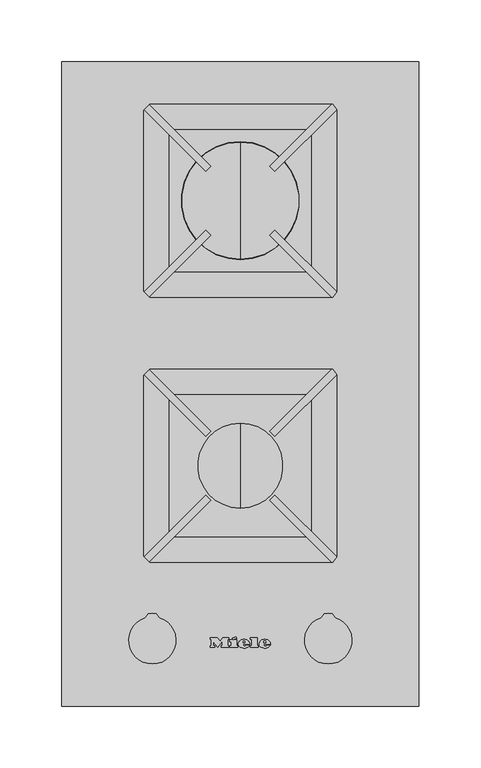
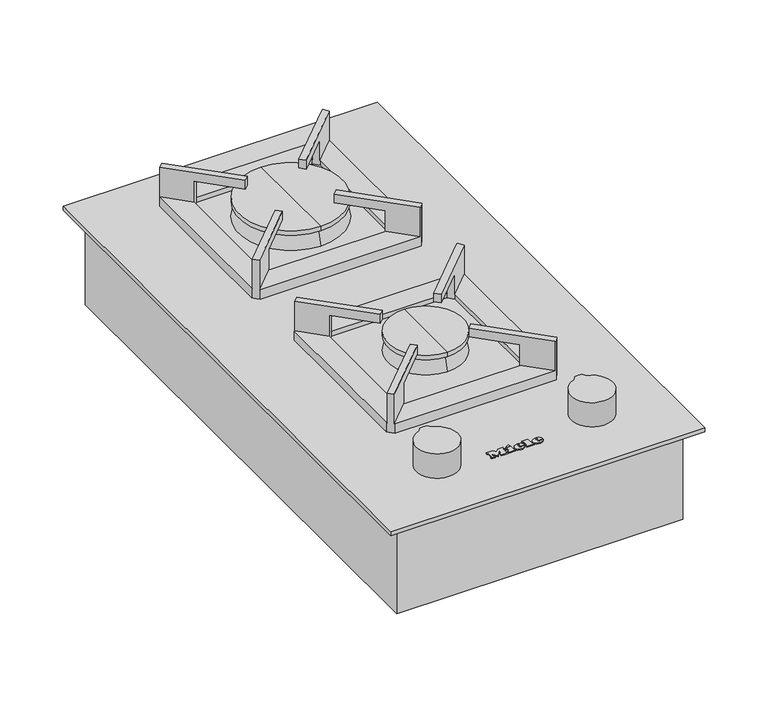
"""IFC4 building model written with IfcOpenShell, lengths in millimetres: proxy geometry, 12303270_SG_CS7152FL : 27715250_SG_12303270_CS7152FL."""

from ifc_helpers import new_model, si_unit, point, frame, frame_2d, origin, origin_with_axes, place, context, project, spatial, polyline, circle_curve, ellipse_curve, trimmed, segment, composite_curve, outline, extrude, faceted_brep, source, transform, mapped, element, save
from ifc_brep_helpers import plane_surface, cylinder_surface, revolved_surface, extruded_surface, advanced_brep


def specialty_equipment_6208a6e8(model_context):
    return source(origin(), model_context, "Body", "SolidModel", [
        advanced_brep(
        [(19.06, 49.1959995, 4.9919765), (19.06, 50.0039992, 4.9925904), (24.412, 50.0039992, 4.9925904), (15.1, 50.0039992, 4.9925904), (17.3, 47.3, 4.990536), (24.276, 49.1959995, 4.9919765), (21.86, 49.1959995, 4.9919765), (19.956, 48.2999997, 4.9912958), (19.06, 51.0279989, 4.9933684), (19.06, 51.8999987, 4.9940309), (20.428, 51.8999987, 4.9940309), (20.428, 51.0279989, 4.9933684), (19.06, 49.1967592, 3.9919768), (19.956, 48.3007595, 3.9912961), (21.86, 49.1967592, 3.9919768), (24.276, 49.1967592, 3.9919768), (17.3, 47.3007598, 3.9905363), (15.1, 50.004759, 3.9925907), (24.412, 50.004759, 3.9925907), (19.06, 50.004759, 3.9925907), (19.06, 51.0287587, 3.9933687), (20.428, 51.0287587, 3.9933687), (20.428, 51.9007584, 3.9940312), (19.06, 51.9007584, 3.9940312)],
        [
            (0, 1),
            (1, 2),
            (2, 3, ellipse_curve(frame((19.756, 50.0039992, 4.9925904), z_axis=(0.0, -0.0007597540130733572, 0.9999997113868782), x_axis=(-1.0, 0.0, 0.0)), 4.656, 3.848)),
            (3, 4, circle_curve(frame((18.1960436, 50.2759991, 4.9927971), z_axis=(0.0, -0.0007597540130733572, 0.9999997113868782), x_axis=(0.0, -0.9999997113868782, -0.0007597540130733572)), 3.1079688)),
            (4, 5, circle_curve(frame((19.6627936, 52.3879985, 4.9944017), z_axis=(0.0, -0.0007597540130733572, 0.9999997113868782), x_axis=(0.0, -0.9999997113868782, -0.0007597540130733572)), 5.6098607)),
            (5, 6),
            (6, 7, circle_curve(frame((20.3470588, 49.9399992, 4.9925418), z_axis=(0.0, 0.0007597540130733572, -0.9999997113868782), x_axis=(0.0, -0.9999997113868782, -0.0007597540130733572)), 1.6859795)),
            (7, 0, circle_curve(frame((19.956, 49.1959995, 4.9919765), z_axis=(0.0, 0.0007597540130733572, -0.9999997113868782), x_axis=(0.0, -0.9999997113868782, -0.0007597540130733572)), 0.896)),
            (8, 9),
            (9, 10, circle_curve(frame((19.744, 51.8999987, 4.9940309), z_axis=(0.0, 0.0007597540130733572, -0.9999997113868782), x_axis=(0.0, -0.9999997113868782, -0.0007597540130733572)), 0.684)),
            (10, 11),
            (11, 8),
            (12, 13, circle_curve(frame((19.956, 49.1967592, 3.9919768), z_axis=(0.0, -0.0007597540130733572, 0.9999997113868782), x_axis=(0.0, -0.9999997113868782, -0.0007597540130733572)), 0.896)),
            (13, 14, circle_curve(frame((20.3470588, 49.940759, 3.9925421), z_axis=(0.0, -0.0007597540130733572, 0.9999997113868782), x_axis=(0.0, -0.9999997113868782, -0.0007597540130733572)), 1.6859795)),
            (14, 15),
            (15, 16, circle_curve(frame((19.6627936, 52.3887583, 3.994402), z_axis=(0.0, 0.0007597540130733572, -0.9999997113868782), x_axis=(0.0, -0.9999997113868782, -0.0007597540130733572)), 5.6098607)),
            (16, 17, circle_curve(frame((18.1960436, 50.2767589, 3.9927974), z_axis=(0.0, 0.0007597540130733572, -0.9999997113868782), x_axis=(0.0, -0.9999997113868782, -0.0007597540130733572)), 3.1079688)),
            (17, 18, ellipse_curve(frame((19.756, 50.004759, 3.9925907), z_axis=(0.0, 0.0007597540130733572, -0.9999997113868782), x_axis=(-1.0, 0.0, 0.0)), 4.656, 3.848)),
            (18, 19),
            (19, 12),
            (20, 21),
            (21, 22),
            (22, 23, circle_curve(frame((19.744, 51.9007584, 3.9940312), z_axis=(0.0, -0.0007597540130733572, 0.9999997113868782), x_axis=(0.0, -0.9999997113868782, -0.0007597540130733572)), 0.684)),
            (23, 20),
            (0, 12),
            (19, 1),
            (18, 2),
            (5, 15),
            (14, 6),
            (17, 3),
            (13, 7),
            (16, 4),
            (8, 20),
            (23, 9),
            (22, 10),
            (21, 11),
        ],
        [
            plane_surface(frame((19.06, 50.0039992, 4.9925904), z_axis=(0.0, -0.0007597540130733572, 0.9999997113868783), x_axis=(0.0, 0.9999997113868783, 0.0007597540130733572))),
            plane_surface(frame((19.06, 50.004759, 3.9925907), z_axis=(0.0, 0.0007597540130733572, -0.9999997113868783), x_axis=(0.0, -0.9999997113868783, -0.0007597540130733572))),
            plane_surface(frame((19.06, 49.1959995, 4.9919765), z_axis=(1.0, 0.0, 0.0), x_axis=(0.0, 0.0007597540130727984, -0.9999997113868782))),
            plane_surface(frame((19.06, 50.0039992, 4.9925904), z_axis=(0.0, -0.9999997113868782, -0.0007597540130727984), x_axis=(0.0, 0.0007597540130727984, -0.9999997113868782))),
            plane_surface(frame((24.276, 49.1959995, 4.9919765), z_axis=(0.0, 0.9999997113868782, 0.0007597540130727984), x_axis=(0.0, 0.0007597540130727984, -0.9999997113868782))),
            extruded_surface(trimmed(ellipse_curve(frame((19.756, 50.0055187, 2.992591), z_axis=(0.0, -0.0007597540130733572, 0.9999997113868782), x_axis=(-1.0, 0.0, 0.0)), 4.656, 3.848), [point((24.412, 50.0055187, 2.992591))], [point((15.1, 50.0055187, 2.992591))], True, "CARTESIAN"), (0.0, -0.0007597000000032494, 0.9999997), 0.9999999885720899),
            revolved_surface(polyline([(20.3470588, 48.25477998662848, 3.9912611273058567), (20.3470588, 48.25402023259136, 4.991260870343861)]), (20.3470588, 49.940759, 3.9925421), (0.0, 0.0007597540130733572, -0.9999997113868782)),
            revolved_surface(polyline([(19.956, 48.30075945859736, 3.9912960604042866), (19.956, 48.29999970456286, 4.991295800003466)]), (19.956, 49.1967592, 3.9919768), (0.0, 0.0007597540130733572, -0.9999997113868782)),
            cylinder_surface(frame((18.1960436, 50.2767589, 3.9927974), z_axis=(0.0, -0.0007597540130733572, 0.9999997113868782), x_axis=(0.0, -0.9999997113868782, -0.0007597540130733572)), 3.1079688),
            cylinder_surface(frame((19.6627936, 52.3887583, 3.994402), z_axis=(0.0, -0.0007597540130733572, 0.9999997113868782), x_axis=(0.0, -0.9999997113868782, -0.0007597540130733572)), 5.6098607),
            plane_surface(frame((19.06, 51.0279989, 4.9933684), z_axis=(1.0, 0.0, 0.0), x_axis=(0.0, 0.0007597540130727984, -0.9999997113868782))),
            revolved_surface(polyline([(19.744, 51.21675859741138, 3.9935115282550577), (19.744, 51.215998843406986, 4.993511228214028)]), (19.744, 51.9007584, 3.9940312), (0.0, 0.0007597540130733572, -0.9999997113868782)),
            plane_surface(frame((20.428, 51.8999987, 4.9940309), z_axis=(-1.0, 0.0, 0.0), x_axis=(0.0, 0.0007597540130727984, -0.9999997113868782))),
            plane_surface(frame((20.428, 51.0279989, 4.9933684), z_axis=(0.0, 0.9999997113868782, 0.0007597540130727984), x_axis=(0.0, 0.0007597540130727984, -0.9999997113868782))),
        ],
        [
            (0, [[1, 2, 3, 4, 5, 6, 7, 8], [9, 10, 11, 12]]),
            (1, [[13, 14, 15, 16, 17, 18, 19, 20], [21, 22, 23, 24]]),
            (2, [[-1, 25, -20, 26]]),
            (3, [[-2, -26, -19, 27]]),
            (4, [[-6, 28, -15, 29]]),
            (5, [[-3, -27, -18, 30]]),
            (6, [[-7, -29, -14, 31]]),
            (7, [[-8, -31, -13, -25]]),
            (8, [[-4, -30, -17, 32]]),
            (9, [[-5, -32, -16, -28]]),
            (10, [[-9, 33, -24, 34]]),
            (11, [[-10, -34, -23, 35]]),
            (12, [[-11, -35, -22, 36]]),
            (13, [[-12, -36, -21, -33]]),
        ],
    ),
        advanced_brep(
        [(2.364, 49.1959995, 4.9919765), (2.364, 50.0039992, 4.9925904), (7.716, 50.0039992, 4.9925904), (-1.596, 50.0039992, 4.9925904), (0.604, 47.3, 4.990536), (7.58, 49.1959995, 4.9919765), (5.164, 49.1959995, 4.9919765), (3.26, 48.2999997, 4.9912958), (2.364, 51.0279989, 4.9933684), (2.364, 51.8999987, 4.9940309), (3.732, 51.8999987, 4.9940309), (3.732, 51.0279989, 4.9933684), (2.364, 49.1967592, 3.9919768), (3.26, 48.3007595, 3.9912961), (5.164, 49.1967592, 3.9919768), (7.58, 49.1967592, 3.9919768), (0.604, 47.3007598, 3.9905363), (-1.596, 50.004759, 3.9925907), (7.716, 50.004759, 3.9925907), (2.364, 50.004759, 3.9925907), (2.364, 51.0287587, 3.9933687), (3.732, 51.0287587, 3.9933687), (3.732, 51.9007584, 3.9940312), (2.364, 51.9007584, 3.9940312)],
        [
            (0, 1),
            (1, 2),
            (2, 3, ellipse_curve(frame((3.06, 50.0039992, 4.9925904), z_axis=(0.0, -0.0007597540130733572, 0.9999997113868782), x_axis=(-1.0, 0.0, 0.0)), 4.656, 3.848)),
            (3, 4, circle_curve(frame((1.5000436, 50.2759991, 4.9927971), z_axis=(0.0, -0.0007597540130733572, 0.9999997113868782), x_axis=(0.0, -0.9999997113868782, -0.0007597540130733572)), 3.1079688)),
            (4, 5, circle_curve(frame((2.9667936, 52.3879985, 4.9944017), z_axis=(0.0, -0.0007597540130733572, 0.9999997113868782), x_axis=(0.0, -0.9999997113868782, -0.0007597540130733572)), 5.6098607)),
            (5, 6),
            (6, 7, circle_curve(frame((3.6510588, 49.9399992, 4.9925418), z_axis=(0.0, 0.0007597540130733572, -0.9999997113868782), x_axis=(0.0, -0.9999997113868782, -0.0007597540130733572)), 1.6859795)),
            (7, 0, circle_curve(frame((3.26, 49.1959995, 4.9919765), z_axis=(0.0, 0.0007597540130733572, -0.9999997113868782), x_axis=(0.0, -0.9999997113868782, -0.0007597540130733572)), 0.896)),
            (8, 9),
            (9, 10, circle_curve(frame((3.048, 51.8999987, 4.9940309), z_axis=(0.0, 0.0007597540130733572, -0.9999997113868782), x_axis=(0.0, -0.9999997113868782, -0.0007597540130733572)), 0.684)),
            (10, 11),
            (11, 8),
            (12, 13, circle_curve(frame((3.26, 49.1967592, 3.9919768), z_axis=(0.0, -0.0007597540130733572, 0.9999997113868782), x_axis=(0.0, -0.9999997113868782, -0.0007597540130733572)), 0.896)),
            (13, 14, circle_curve(frame((3.6510588, 49.940759, 3.9925421), z_axis=(0.0, -0.0007597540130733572, 0.9999997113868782), x_axis=(0.0, -0.9999997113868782, -0.0007597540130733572)), 1.6859795)),
            (14, 15),
            (15, 16, circle_curve(frame((2.9667936, 52.3887583, 3.994402), z_axis=(0.0, 0.0007597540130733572, -0.9999997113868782), x_axis=(0.0, -0.9999997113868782, -0.0007597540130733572)), 5.6098607)),
            (16, 17, circle_curve(frame((1.5000436, 50.2767589, 3.9927974), z_axis=(0.0, 0.0007597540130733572, -0.9999997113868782), x_axis=(0.0, -0.9999997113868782, -0.0007597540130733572)), 3.1079688)),
            (17, 18, ellipse_curve(frame((3.06, 50.004759, 3.9925907), z_axis=(0.0, 0.0007597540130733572, -0.9999997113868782), x_axis=(-1.0, 0.0, 0.0)), 4.656, 3.848)),
            (18, 19),
            (19, 12),
            (20, 21),
            (21, 22),
            (22, 23, circle_curve(frame((3.048, 51.9007584, 3.9940312), z_axis=(0.0, -0.0007597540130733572, 0.9999997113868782), x_axis=(0.0, -0.9999997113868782, -0.0007597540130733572)), 0.684)),
            (23, 20),
            (0, 12),
            (19, 1),
            (18, 2),
            (5, 15),
            (14, 6),
            (17, 3),
            (13, 7),
            (16, 4),
            (8, 20),
            (23, 9),
            (22, 10),
            (21, 11),
        ],
        [
            plane_surface(frame((2.364, 50.0039992, 4.9925904), z_axis=(0.0, -0.0007597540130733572, 0.9999997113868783), x_axis=(0.0, 0.9999997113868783, 0.0007597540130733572))),
            plane_surface(frame((2.364, 50.004759, 3.9925907), z_axis=(0.0, 0.0007597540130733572, -0.9999997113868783), x_axis=(0.0, -0.9999997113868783, -0.0007597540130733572))),
            plane_surface(frame((2.364, 49.1959995, 4.9919765), z_axis=(1.0, 0.0, 0.0), x_axis=(0.0, 0.0007597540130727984, -0.9999997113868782))),
            plane_surface(frame((2.364, 50.0039992, 4.9925904), z_axis=(0.0, -0.9999997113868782, -0.0007597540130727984), x_axis=(0.0, 0.0007597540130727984, -0.9999997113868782))),
            plane_surface(frame((7.58, 49.1959995, 4.9919765), z_axis=(0.0, 0.9999997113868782, 0.0007597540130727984), x_axis=(0.0, 0.0007597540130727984, -0.9999997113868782))),
            extruded_surface(trimmed(ellipse_curve(frame((3.06, 50.0055187, 2.992591), z_axis=(0.0, -0.0007597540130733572, 0.9999997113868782), x_axis=(-1.0, 0.0, 0.0)), 4.656, 3.848), [point((7.716, 50.0055187, 2.992591))], [point((-1.596, 50.0055187, 2.992591))], True, "CARTESIAN"), (0.0, -0.0007597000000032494, 0.9999997), 0.9999999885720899),
            revolved_surface(polyline([(3.6510588, 48.25477998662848, 3.9912611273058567), (3.6510588, 48.25402023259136, 4.991260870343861)]), (3.6510588, 49.940759, 3.9925421), (0.0, 0.0007597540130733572, -0.9999997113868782)),
            revolved_surface(polyline([(3.26, 48.30075945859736, 3.9912960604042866), (3.26, 48.29999970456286, 4.991295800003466)]), (3.26, 49.1967592, 3.9919768), (0.0, 0.0007597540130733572, -0.9999997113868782)),
            cylinder_surface(frame((1.5000436, 50.2767589, 3.9927974), z_axis=(0.0, -0.0007597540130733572, 0.9999997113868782), x_axis=(0.0, -0.9999997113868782, -0.0007597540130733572)), 3.1079688),
            cylinder_surface(frame((2.9667936, 52.3887583, 3.994402), z_axis=(0.0, -0.0007597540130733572, 0.9999997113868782), x_axis=(0.0, -0.9999997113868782, -0.0007597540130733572)), 5.6098607),
            plane_surface(frame((2.364, 51.0279989, 4.9933684), z_axis=(1.0, 0.0, 0.0), x_axis=(0.0, 0.0007597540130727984, -0.9999997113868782))),
            revolved_surface(polyline([(3.048, 51.21675859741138, 3.9935115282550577), (3.048, 51.215998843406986, 4.993511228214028)]), (3.048, 51.9007584, 3.9940312), (0.0, 0.0007597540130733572, -0.9999997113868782)),
            plane_surface(frame((3.732, 51.8999987, 4.9940309), z_axis=(-1.0, 0.0, 0.0), x_axis=(0.0, 0.0007597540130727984, -0.9999997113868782))),
            plane_surface(frame((3.732, 51.0279989, 4.9933684), z_axis=(0.0, 0.9999997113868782, 0.0007597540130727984), x_axis=(0.0, 0.0007597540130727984, -0.9999997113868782))),
        ],
        [
            (0, [[1, 2, 3, 4, 5, 6, 7, 8], [9, 10, 11, 12]]),
            (1, [[13, 14, 15, 16, 17, 18, 19, 20], [21, 22, 23, 24]]),
            (2, [[-1, 25, -20, 26]]),
            (3, [[-2, -26, -19, 27]]),
            (4, [[-6, 28, -15, 29]]),
            (5, [[-3, -27, -18, 30]]),
            (6, [[-7, -29, -14, 31]]),
            (7, [[-8, -31, -13, -25]]),
            (8, [[-4, -30, -17, 32]]),
            (9, [[-5, -32, -16, -28]]),
            (10, [[-9, 33, -24, 34]]),
            (11, [[-10, -34, -23, 35]]),
            (12, [[-11, -35, -22, 36]]),
            (13, [[-12, -36, -21, -33]]),
        ],
    ),
        extrude(outline(polyline([(0.0, 0.0), (-0.0109086, -2.9993294), (-1.4390415, -2.9920868), (-1.4315306, 0.0), (0.0, 0.0)])), frame((-6.38, 54.8287576, 3.9962558), z_axis=(0.0, -0.0007597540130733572, 0.9999997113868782), x_axis=(-0.42472021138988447, 0.9053243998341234, 0.0006878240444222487)), (0.0, 0.0, 1.0), 1.0),
        extrude(outline(polyline([(-0.4933908, 2.4141097), (-2.7800844, -2.4601583), (-7.0459742, -0.4588767), (-7.4401145, -1.2990179), (-8.6568709, -0.728194), (-5.9760369, 4.9862153), (-4.7592806, 4.4153913), (-5.1636142, 3.5535222), (-2.1941494, 2.16044), (-1.7898157, 3.022309), (-0.4933908, 2.4141097)])), frame((-6.38, 54.8287576, 3.9962558), z_axis=(0.0, -0.0007597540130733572, 0.9999997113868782), x_axis=(-0.42472021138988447, 0.9053243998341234, 0.0006878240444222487)), (0.0, 0.0, 1.0), 1.0),
        extrude(outline(polyline([(0.0, 0.0), (0.0, -1.304), (-5.504, -1.304), (-5.504, 5.3519999), (-6.488, 5.3519999), (-6.488, 6.6959999), (0.0, 6.6959999), (0.0, 5.3519999), (-0.96, 5.3519999), (-0.96, 0.0), (0.0, 0.0)])), frame((8.164, 53.9967578, 3.9956236), z_axis=(0.0, -0.0007597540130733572, 0.9999997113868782), x_axis=(-1.0, 0.0, 0.0)), (0.0, 0.0, 1.0), 1.0),
        extrude(outline(polyline([(0.0, 0.0), (0.0, -1.304), (-5.576, -1.304), (-7.92, 1.696), (-10.256, -1.304), (-15.128, -1.304), (-15.128, 0.0), (-14.112, 0.0), (-14.112, 5.3519999), (-15.128, 5.3519999), (-15.128, 6.6959999), (-8.744, 6.6959999), (-8.744, 5.3519999), (-9.728, 5.3519999), (-9.728, 1.8807776), (-6.136, 6.6959999), (-2.56, 1.9488753), (-2.56, 5.3519999), (-3.52, 5.3519999), (-3.52, 6.6959999), (0.0, 6.6959999), (0.0, 5.3519999), (-0.968, 5.3519999), (-0.968, 0.0), (0.0, 0.0)])), frame((-24.3, 53.9967578, 3.9956236), z_axis=(0.0, -0.0007597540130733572, 0.9999997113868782), x_axis=(-1.0, 0.0, 0.0)), (0.0, 0.0, 1.0), 1.0),
        extrude(outline(composite_curve([segment(polyline([(-76.6016767, 71.1554735), (-74.3, 74.5)]), True, "CONTINUOUS"), segment(trimmed(circle_curve(frame_2d((-71.0, 53.0)), 21.7517815), [point((-74.3, 74.5))], [point((-67.7, 74.5))], False, "CARTESIAN"), True, "CONTINUOUS"), segment(polyline([(-67.7, 74.5), (-65.3983233, 71.1554735)]), True, "CONTINUOUS"), segment(trimmed(circle_curve(frame_2d((-71.0, 53.0)), 19.0), [point((-65.3983233, 71.1554735))], [point((-76.6016767, 71.1554735))], False, "CARTESIAN"), True, "CONTINUOUS")], self_intersect=False)), frame((0.0, 0.0, 11.5), z_axis=(0.0, 0.0, 1.0), x_axis=(1.0, 0.0, 0.0)), (0.0, 0.0, 1.0), 23.5),
        extrude(outline(composite_curve([segment(trimmed(circle_curve(frame_2d((71.0, 53.0)), 7.5), [point((63.5, 53.0))], [point((78.5, 53.0))], False, "CARTESIAN"), True, "CONTINUOUS"), segment(trimmed(circle_curve(frame_2d((71.0, 53.0)), 7.5), [point((78.5, 53.0))], [point((63.5, 53.0))], False, "CARTESIAN"), True, "CONTINUOUS")], self_intersect=False)), frame((0.0, 0.0, 4.0), z_axis=(0.0, 0.0, 1.0), x_axis=(1.0, 0.0, 0.0)), (0.0, 0.0, 1.0), 7.5),
        extrude(outline(composite_curve([segment(trimmed(circle_curve(frame_2d((-71.0, 53.0)), 7.5), [point((-78.5, 53.0))], [point((-63.5, 53.0))], False, "CARTESIAN"), True, "CONTINUOUS"), segment(trimmed(circle_curve(frame_2d((-71.0, 53.0)), 7.5), [point((-63.5, 53.0))], [point((-78.5, 53.0))], False, "CARTESIAN"), True, "CONTINUOUS")], self_intersect=False)), frame((0.0, 0.0, 4.0), z_axis=(0.0, 0.0, 1.0), x_axis=(1.0, 0.0, 0.0)), (0.0, 0.0, 1.0), 7.5),
        extrude(outline(composite_curve([segment(polyline([(65.3983233, 71.1554735), (67.7, 74.5)]), True, "CONTINUOUS"), segment(trimmed(circle_curve(frame_2d((71.0, 53.0)), 21.7517815), [point((67.7, 74.5))], [point((74.3, 74.5))], False, "CARTESIAN"), True, "CONTINUOUS"), segment(polyline([(74.3, 74.5), (76.6016767, 71.1554735)]), True, "CONTINUOUS"), segment(trimmed(circle_curve(frame_2d((71.0, 53.0)), 19.0), [point((76.6016767, 71.1554735))], [point((65.3983233, 71.1554735))], False, "CARTESIAN"), True, "CONTINUOUS")], self_intersect=False)), frame((0.0, 0.0, 11.5), z_axis=(0.0, 0.0, 1.0), x_axis=(1.0, 0.0, 0.0)), (0.0, 0.0, 1.0), 23.5),
        extrude(outline(polyline([(131.0, 507.0), (131.0, 13.0), (-131.0, 13.0), (-131.0, 507.0), (131.0, 507.0)])), frame((0.0, 0.0, -88.0), z_axis=(0.0, 0.0, 1.0), x_axis=(1.0, 0.0, 0.0)), (0.0, 0.0, 1.0), 85.5),
        extrude(outline(polyline([(133.0, 509.0), (133.0, 11.0), (-133.0, 11.0), (-133.0, 509.0), (133.0, 509.0)])), frame((0.0, 0.0, -2.5), z_axis=(0.0, 0.0, 1.0), x_axis=(1.0, 0.0, 0.0)), (0.0, 0.0, 1.0), 2.5),
        extrude(outline(polyline([(67.9, 475.9), (67.9, 340.1), (-67.9, 340.1), (-67.9, 475.9), (67.9, 475.9)])), frame((0.0, 0.0, 4.0), z_axis=(0.0, 0.0, 1.0), x_axis=(1.0, 0.0, 0.0)), (0.0, 0.0, 1.0), 3.8),
        extrude(outline(polyline([(67.9, 261.9), (67.9, 126.1), (-67.9, 126.1), (-67.9, 261.9), (67.9, 261.9)])), frame((0.0, 0.0, 4.0), z_axis=(0.0, 0.0, 1.0), x_axis=(1.0, 0.0, 0.0)), (0.0, 0.0, 1.0), 3.8),
        extrude(outline(polyline([(144.0, 520.0), (144.0, 0.0), (-144.0, 0.0), (-144.0, 520.0), (144.0, 520.0)])), origin_with_axes(), (0.0, 0.0, 1.0), 4.0),
        faceted_brep([(74.5, 486.0, 42.0), (73.7573593, 486.0, 42.0), (23.6886797, 435.9313203, 42.0), (27.9313203, 431.6886797, 42.0), (77.6881462, 481.4455055, 42.0), (73.7573593, 330.0, 42.0), (74.5, 330.0, 42.0), (77.6881462, 334.5544945, 42.0), (27.9313203, 384.3113203, 42.0), (23.6886797, 380.0686797, 42.0), (-73.3786797, 485.6213203, 42.0), (-77.6213203, 481.3786797, 42.0), (-27.9313203, 431.6886797, 42.0), (-23.6886797, 435.9313203, 42.0), (-77.6213203, 334.6213203, 42.0), (-73.3786797, 330.3786797, 42.0), (-23.6886797, 380.0686797, 42.0), (-27.9313203, 384.3113203, 42.0), (74.5, 486.0, 4.0), (78.0, 481.0, 4.0), (78.0, 335.0, 4.0), (74.5, 330.0, 4.0), (-73.0, 330.0, 4.0), (-78.0, 335.0, 4.0), (-78.0, 481.0, 4.0), (-73.0, 486.0, 4.0), (69.0, 339.0, 4.0), (69.0, 477.0, 4.0), (-69.0, 477.0, 4.0), (-69.0, 339.0, 4.0), (-73.0, 486.0, 13.5), (73.7573593, 486.0, 13.5), (-78.0, 335.0, 13.5), (-78.0, 481.0, 13.5), (73.7573593, 330.0, 13.5), (-73.0, 330.0, 13.5), (78.0, 481.0, 13.5), (78.0, 335.0, 13.5), (-27.9313203, 431.6886797, 33.5), (-23.6886797, 435.9313203, 33.5), (23.6886797, 435.9313203, 33.5), (27.9313203, 431.6886797, 33.5), (27.9313203, 384.3113203, 33.5), (23.6886797, 380.0686797, 33.5), (-23.6886797, 380.0686797, 33.5), (-27.9313203, 384.3113203, 33.5), (69.0, 477.0, 9.0), (69.0, 339.0, 9.0), (-69.0, 339.0, 9.0), (-69.0, 477.0, 9.0), (57.85, 355.15, 9.0), (57.85, 460.85, 9.0), (52.85, 465.85, 9.0), (-52.85, 465.85, 9.0), (-57.85, 460.85, 9.0), (-57.85, 355.15, 9.0), (-52.85, 350.15, 9.0), (52.85, 350.15, 9.0), (-73.3786797, 485.6213203, 13.5), (-53.2286797, 465.4713203, 13.5), (-52.85, 465.85, 13.5), (52.85, 465.85, 13.5), (53.2286797, 465.4713203, 13.5), (-77.6213203, 334.6213203, 13.5), (-57.4713203, 354.7713203, 13.5), (-57.85, 355.15, 13.5), (-57.85, 460.85, 13.5), (-57.4713203, 461.2286797, 13.5), (-77.6213203, 481.3786797, 13.5), (53.2286797, 350.5286797, 13.5), (52.85, 350.15, 13.5), (-52.85, 350.15, 13.5), (-53.2286797, 350.5286797, 13.5), (-73.3786797, 330.3786797, 13.5), (77.6881462, 481.4455055, 13.5), (57.4713203, 461.2286797, 13.5), (57.85, 460.85, 13.5), (57.85, 355.15, 13.5), (57.4713203, 354.7713203, 13.5), (77.6881462, 334.5544945, 13.5), (53.2286797, 350.5286797, 33.5), (-53.2286797, 350.5286797, 33.5), (57.4713203, 461.2286797, 33.5), (57.4713203, 354.7713203, 33.5), (-53.2286797, 465.4713203, 33.5), (53.2286797, 465.4713203, 33.5), (-57.4713203, 354.7713203, 33.5), (-57.4713203, 461.2286797, 33.5)], [[[0, 1, 2, 3, 4]], [[5, 6, 7, 8, 9]], [[10, 11, 12, 13]], [[14, 15, 16, 17]], [[18, 19, 20, 21, 22, 23, 24, 25], [26, 27, 28, 29]], [[18, 25, 30, 31, 1, 0]], [[24, 23, 32, 33]], [[22, 21, 6, 5, 34, 35]], [[20, 19, 36, 37]], [[13, 12, 38, 39]], [[3, 2, 40, 41]], [[9, 8, 42, 43]], [[17, 16, 44, 45]], [[46, 47, 48, 49], [50, 51, 52, 53, 54, 55, 56, 57]], [[47, 46, 27, 26]], [[48, 47, 26, 29]], [[49, 48, 29, 28]], [[46, 49, 28, 27]], [[31, 30, 58, 59, 60, 61, 62]], [[33, 32, 63, 64, 65, 66, 67, 68]], [[35, 34, 69, 70, 71, 72, 73]], [[37, 36, 74, 75, 76, 77, 78, 79]], [[5, 9, 43, 80, 69, 34]], [[16, 15, 73, 72, 81, 44]], [[4, 3, 41, 82, 75, 74]], [[8, 7, 79, 78, 83, 42]], [[10, 13, 39, 84, 59, 58]], [[2, 1, 31, 62, 85, 40]], [[14, 17, 45, 86, 64, 63]], [[12, 11, 68, 67, 87, 38]], [[85, 82, 41, 40]], [[83, 80, 43, 42]], [[81, 86, 45, 44]], [[87, 84, 39, 38]], [[76, 51, 50, 77]], [[70, 57, 56, 71]], [[65, 55, 54, 66]], [[60, 53, 52, 61]], [[82, 85, 62, 61, 52, 51, 76, 75]], [[80, 83, 78, 77, 50, 57, 70, 69]], [[86, 81, 72, 71, 56, 55, 65, 64]], [[84, 87, 67, 66, 54, 53, 60, 59]], [[25, 24, 33, 68, 11, 10, 58, 30]], [[23, 22, 35, 73, 15, 14, 63, 32]], [[21, 20, 37, 79, 7, 6]], [[19, 18, 0, 4, 74, 36]]]),
        faceted_brep([(74.5, 272.0, 42.0), (73.7573593, 272.0, 42.0), (23.6886797, 221.9313203, 42.0), (27.9313203, 217.6886797, 42.0), (77.6881462, 267.4455055, 42.0), (73.7573593, 116.0, 42.0), (74.5, 116.0, 42.0), (77.6881462, 120.5544945, 42.0), (27.9313203, 170.3113203, 42.0), (23.6886797, 166.0686797, 42.0), (-73.3786797, 271.6213203, 42.0), (-77.6213203, 267.3786797, 42.0), (-27.9313203, 217.6886797, 42.0), (-23.6886797, 221.9313203, 42.0), (-77.6213203, 120.6213203, 42.0), (-73.3786797, 116.3786797, 42.0), (-23.6886797, 166.0686797, 42.0), (-27.9313203, 170.3113203, 42.0), (74.5, 272.0, 4.0), (78.0, 267.0, 4.0), (78.0, 121.0, 4.0), (74.5, 116.0, 4.0), (-73.0, 116.0, 4.0), (-78.0, 121.0, 4.0), (-78.0, 267.0, 4.0), (-73.0, 272.0, 4.0), (69.0, 125.0, 4.0), (69.0, 263.0, 4.0), (-69.0, 263.0, 4.0), (-69.0, 125.0, 4.0), (-73.0, 272.0, 13.5), (73.7573593, 272.0, 13.5), (-78.0, 121.0, 13.5), (-78.0, 267.0, 13.5), (73.7573593, 116.0, 13.5), (-73.0, 116.0, 13.5), (78.0, 267.0, 13.5), (78.0, 121.0, 13.5), (-27.9313203, 217.6886797, 33.5), (-23.6886797, 221.9313203, 33.5), (23.6886797, 221.9313203, 33.5), (27.9313203, 217.6886797, 33.5), (27.9313203, 170.3113203, 33.5), (23.6886797, 166.0686797, 33.5), (-23.6886797, 166.0686797, 33.5), (-27.9313203, 170.3113203, 33.5), (69.0, 263.0, 9.0), (69.0, 125.0, 9.0), (-69.0, 125.0, 9.0), (-69.0, 263.0, 9.0), (57.85, 141.15, 9.0), (57.85, 246.85, 9.0), (52.85, 251.85, 9.0), (-52.85, 251.85, 9.0), (-57.85, 246.85, 9.0), (-57.85, 141.15, 9.0), (-52.85, 136.15, 9.0), (52.85, 136.15, 9.0), (-73.3786797, 271.6213203, 13.5), (-53.2286797, 251.4713203, 13.5), (-52.85, 251.85, 13.5), (52.85, 251.85, 13.5), (53.2286797, 251.4713203, 13.5), (-77.6213203, 120.6213203, 13.5), (-57.4713203, 140.7713203, 13.5), (-57.85, 141.15, 13.5), (-57.85, 246.85, 13.5), (-57.4713203, 247.2286797, 13.5), (-77.6213203, 267.3786797, 13.5), (53.2286797, 136.5286797, 13.5), (52.85, 136.15, 13.5), (-52.85, 136.15, 13.5), (-53.2286797, 136.5286797, 13.5), (-73.3786797, 116.3786797, 13.5), (77.6881462, 267.4455055, 13.5), (57.4713203, 247.2286797, 13.5), (57.85, 246.85, 13.5), (57.85, 141.15, 13.5), (57.4713203, 140.7713203, 13.5), (77.6881462, 120.5544945, 13.5), (-53.2286797, 251.4713203, 33.5), (53.2286797, 251.4713203, 33.5), (57.4713203, 247.2286797, 33.5), (57.4713203, 140.7713203, 33.5), (53.2286797, 136.5286797, 33.5), (-53.2286797, 136.5286797, 33.5), (-57.4713203, 140.7713203, 33.5), (-57.4713203, 247.2286797, 33.5)], [[[0, 1, 2, 3, 4]], [[5, 6, 7, 8, 9]], [[10, 11, 12, 13]], [[14, 15, 16, 17]], [[18, 19, 20, 21, 22, 23, 24, 25], [26, 27, 28, 29]], [[18, 25, 30, 31, 1, 0]], [[24, 23, 32, 33]], [[22, 21, 6, 5, 34, 35]], [[20, 19, 36, 37]], [[13, 12, 38, 39]], [[3, 2, 40, 41]], [[9, 8, 42, 43]], [[17, 16, 44, 45]], [[46, 47, 48, 49], [50, 51, 52, 53, 54, 55, 56, 57]], [[47, 46, 27, 26]], [[48, 47, 26, 29]], [[49, 48, 29, 28]], [[46, 49, 28, 27]], [[31, 30, 58, 59, 60, 61, 62]], [[33, 32, 63, 64, 65, 66, 67, 68]], [[35, 34, 69, 70, 71, 72, 73]], [[37, 36, 74, 75, 76, 77, 78, 79]], [[10, 13, 39, 80, 59, 58]], [[2, 1, 31, 62, 81, 40]], [[4, 3, 41, 82, 75, 74]], [[8, 7, 79, 78, 83, 42]], [[5, 9, 43, 84, 69, 34]], [[16, 15, 73, 72, 85, 44]], [[14, 17, 45, 86, 64, 63]], [[12, 11, 68, 67, 87, 38]], [[81, 82, 41, 40]], [[83, 84, 43, 42]], [[85, 86, 45, 44]], [[87, 80, 39, 38]], [[76, 51, 50, 77]], [[70, 57, 56, 71]], [[65, 55, 54, 66]], [[60, 53, 52, 61]], [[82, 81, 62, 61, 52, 51, 76, 75]], [[84, 83, 78, 77, 50, 57, 70, 69]], [[86, 85, 72, 71, 56, 55, 65, 64]], [[80, 87, 67, 66, 54, 53, 60, 59]], [[25, 24, 33, 68, 11, 10, 58, 30]], [[23, 22, 35, 73, 15, 14, 63, 32]], [[21, 20, 37, 79, 7, 6]], [[19, 18, 0, 4, 74, 36]]]),
        advanced_brep(
        [(0.0, 408.0, 7.8), (0.0, 377.4, 7.8), (0.0, 438.6, 7.8), (0.0, 452.0, 26.5216448), (0.0, 364.0, 26.5216448), (0.0, 408.0, 26.5216448), (0.0, 455.6, 11.9), (0.0, 360.4, 11.9), (0.0, 438.6, 11.9), (0.0, 377.4, 11.9)],
        [
            (0, 1),
            (1, 2, circle_curve(frame((0.0, 408.0, 7.8), z_axis=(0.0, 0.0, -1.0), x_axis=(0.0, -1.0, 0.0)), 30.6)),
            (2, 0),
            (2, 1, circle_curve(frame((0.0, 408.0, 7.8), z_axis=(0.0, 0.0, -1.0), x_axis=(0.0, -1.0, 0.0)), 30.6)),
            (3, 4, circle_curve(frame((0.0, 408.0, 26.5216448), z_axis=(0.0, 0.0, 1.0), x_axis=(0.0, -1.0, 0.0)), 44.0)),
            (4, 5),
            (5, 3),
            (4, 3, circle_curve(frame((0.0, 408.0, 26.5216448), z_axis=(0.0, 0.0, 1.0), x_axis=(0.0, -1.0, 0.0)), 44.0)),
            (6, 7, circle_curve(frame((0.0, 408.0, 11.9), z_axis=(0.0, 0.0, 1.0), x_axis=(0.0, -1.0, 0.0)), 47.6)),
            (7, 4),
            (3, 6),
            (7, 6, circle_curve(frame((0.0, 408.0, 11.9), z_axis=(0.0, 0.0, 1.0), x_axis=(0.0, -1.0, 0.0)), 47.6)),
            (8, 9, circle_curve(frame((0.0, 408.0, 11.9), z_axis=(0.0, 0.0, 1.0), x_axis=(0.0, -1.0, 0.0)), 30.6)),
            (9, 7),
            (6, 8),
            (9, 8, circle_curve(frame((0.0, 408.0, 11.9), z_axis=(0.0, 0.0, 1.0), x_axis=(0.0, -1.0, 0.0)), 30.6)),
            (1, 9),
            (8, 2),
        ],
        [
            plane_surface(frame((0.0, 408.0, 7.8), z_axis=(0.0, 0.0, -1.0), x_axis=(0.0, -1.0, 0.0))),
            plane_surface(frame((0.0, 408.0, 26.5216448), z_axis=(0.0, 0.0, 1.0), x_axis=(0.0, -1.0, 0.0))),
            revolved_surface(polyline([(0.0, 364.0, 26.5216448), (0.0, 360.4, 11.9)]), (0.0, 408.0, 2380.4), (0.0, 0.0, -1.0)),
            plane_surface(frame((0.0, 408.0, 11.9), z_axis=(0.0, 0.0, -1.0), x_axis=(0.0, -1.0, 0.0))),
            cylinder_surface(frame((0.0, 408.0, 2380.4), z_axis=(0.0, 0.0, -1.0), x_axis=(0.0, -1.0, 0.0)), 30.6),
        ],
        [
            (0, [[1, 2, 3]]),
            (0, [[-3, 4, -1]]),
            (1, [[5, 6, 7]]),
            (1, [[8, -7, -6]]),
            (2, [[9, 10, -5, 11]]),
            (2, [[12, -11, -8, -10]]),
            (3, [[13, 14, -9, 15]]),
            (3, [[16, -15, -12, -14]]),
            (4, [[-2, 17, -13, 18]]),
            (4, [[-4, -18, -16, -17]]),
        ],
    ),
        advanced_brep(
        [(0.0, 194.0, 7.8), (0.0, 172.0, 7.8), (0.0, 216.0, 7.8), (0.0, 224.8, 26.5216448), (0.0, 163.2, 26.5216448), (0.0, 194.0, 26.5216448), (0.0, 228.25, 11.9), (0.0, 159.75, 11.9), (0.0, 216.0, 11.9), (0.0, 172.0, 11.9)],
        [
            (0, 1),
            (1, 2, circle_curve(frame((0.0, 194.0, 7.8), z_axis=(0.0, 0.0, -1.0), x_axis=(0.0, -1.0, 0.0)), 22.0)),
            (2, 0),
            (2, 1, circle_curve(frame((0.0, 194.0, 7.8), z_axis=(0.0, 0.0, -1.0), x_axis=(0.0, -1.0, 0.0)), 22.0)),
            (3, 4, circle_curve(frame((0.0, 194.0, 26.5216448), z_axis=(0.0, 0.0, 1.0), x_axis=(0.0, -1.0, 0.0)), 30.8)),
            (4, 5),
            (5, 3),
            (4, 3, circle_curve(frame((0.0, 194.0, 26.5216448), z_axis=(0.0, 0.0, 1.0), x_axis=(0.0, -1.0, 0.0)), 30.8)),
            (6, 7, circle_curve(frame((0.0, 194.0, 11.9), z_axis=(0.0, 0.0, 1.0), x_axis=(0.0, -1.0, 0.0)), 34.25)),
            (7, 4),
            (3, 6),
            (7, 6, circle_curve(frame((0.0, 194.0, 11.9), z_axis=(0.0, 0.0, 1.0), x_axis=(0.0, -1.0, 0.0)), 34.25)),
            (8, 9, circle_curve(frame((0.0, 194.0, 11.9), z_axis=(0.0, 0.0, 1.0), x_axis=(0.0, -1.0, 0.0)), 22.0)),
            (9, 7),
            (6, 8),
            (9, 8, circle_curve(frame((0.0, 194.0, 11.9), z_axis=(0.0, 0.0, 1.0), x_axis=(0.0, -1.0, 0.0)), 22.0)),
            (1, 9),
            (8, 2),
        ],
        [
            plane_surface(frame((0.0, 194.0, 7.8), z_axis=(0.0, 0.0, -1.0), x_axis=(0.0, -1.0, 0.0))),
            plane_surface(frame((0.0, 194.0, 26.5216448), z_axis=(0.0, 0.0, 1.0), x_axis=(0.0, -1.0, 0.0))),
            revolved_surface(polyline([(0.0, 163.2, 26.5216448), (0.0, 159.75, 11.9)]), (0.0, 194.0, 2380.4), (0.0, 0.0, -1.0)),
            plane_surface(frame((0.0, 194.0, 11.9), z_axis=(0.0, 0.0, -1.0), x_axis=(0.0, -1.0, 0.0))),
            cylinder_surface(frame((0.0, 194.0, 2380.4), z_axis=(0.0, 0.0, -1.0), x_axis=(0.0, -1.0, 0.0)), 22.0),
        ],
        [
            (0, [[1, 2, 3]]),
            (0, [[-3, 4, -1]]),
            (1, [[5, 6, 7]]),
            (1, [[8, -7, -6]]),
            (2, [[9, 10, -5, 11]]),
            (2, [[12, -11, -8, -10]]),
            (3, [[13, 14, -9, 15]]),
            (3, [[16, -15, -12, -14]]),
            (4, [[-2, 17, -13, 18]]),
            (4, [[-4, -18, -16, -17]]),
        ],
    ),
        advanced_brep(
        [(0.0, 455.25, 30.8716448), (0.0, 360.75, 30.8716448), (0.0, 408.0, 30.8716448), (0.0, 455.25, 26.5216448), (0.0, 360.75, 26.5216448), (0.0, 408.0, 26.5216448)],
        [
            (0, 1, circle_curve(frame((0.0, 408.0, 30.8716448), z_axis=(0.0, 0.0, 1.0), x_axis=(0.0, -1.0, 0.0)), 47.25)),
            (1, 2),
            (2, 0),
            (1, 0, circle_curve(frame((0.0, 408.0, 30.8716448), z_axis=(0.0, 0.0, 1.0), x_axis=(0.0, -1.0, 0.0)), 47.25)),
            (3, 4, circle_curve(frame((0.0, 408.0, 26.5216448), z_axis=(0.0, 0.0, 1.0), x_axis=(0.0, -1.0, 0.0)), 47.25)),
            (4, 1),
            (0, 3),
            (4, 3, circle_curve(frame((0.0, 408.0, 26.5216448), z_axis=(0.0, 0.0, 1.0), x_axis=(0.0, -1.0, 0.0)), 47.25)),
            (5, 4),
            (3, 5),
        ],
        [
            plane_surface(frame((0.0, 408.0, 30.8716448), z_axis=(0.0, 0.0, 1.0), x_axis=(0.0, -1.0, 0.0))),
            cylinder_surface(frame((0.0, 408.0, 2438.9), z_axis=(0.0, 0.0, -1.0), x_axis=(0.0, -1.0, 0.0)), 47.25),
            plane_surface(frame((0.0, 408.0, 26.5216448), z_axis=(0.0, 0.0, -1.0), x_axis=(0.0, -1.0, 0.0))),
        ],
        [
            (0, [[1, 2, 3]]),
            (0, [[4, -3, -2]]),
            (1, [[5, 6, -1, 7]]),
            (1, [[8, -7, -4, -6]]),
            (2, [[9, -5, 10]]),
            (2, [[-10, -8, -9]]),
        ],
    ),
        advanced_brep(
        [(0.0, 228.25, 30.85), (0.0, 159.75, 30.85), (0.0, 194.0, 30.85), (0.0, 228.25, 26.5216448), (0.0, 159.75, 26.5216448), (0.0, 194.0, 26.5216448)],
        [
            (0, 1, circle_curve(frame((0.0, 194.0, 30.85), z_axis=(0.0, 0.0, 1.0), x_axis=(0.0, -1.0, 0.0)), 34.25)),
            (1, 2),
            (2, 0),
            (1, 0, circle_curve(frame((0.0, 194.0, 30.85), z_axis=(0.0, 0.0, 1.0), x_axis=(0.0, -1.0, 0.0)), 34.25)),
            (3, 4, circle_curve(frame((0.0, 194.0, 26.5216448), z_axis=(0.0, 0.0, 1.0), x_axis=(0.0, -1.0, 0.0)), 34.25)),
            (4, 1),
            (0, 3),
            (4, 3, circle_curve(frame((0.0, 194.0, 26.5216448), z_axis=(0.0, 0.0, 1.0), x_axis=(0.0, -1.0, 0.0)), 34.25)),
            (5, 4),
            (3, 5),
        ],
        [
            plane_surface(frame((0.0, 194.0, 30.85), z_axis=(0.0, 0.0, 1.0), x_axis=(0.0, -1.0, 0.0))),
            cylinder_surface(frame((0.0, 194.0, 2438.9), z_axis=(0.0, 0.0, -1.0), x_axis=(0.0, -1.0, 0.0)), 34.25),
            plane_surface(frame((0.0, 194.0, 26.5216448), z_axis=(0.0, 0.0, -1.0), x_axis=(0.0, -1.0, 0.0))),
        ],
        [
            (0, [[1, 2, 3]]),
            (0, [[4, -3, -2]]),
            (1, [[5, 6, -1, 7]]),
            (1, [[8, -7, -4, -6]]),
            (2, [[9, -5, 10]]),
            (2, [[-10, -8, -9]]),
        ],
    ),
        extrude(outline(polyline([(66.8, 469.6076101), (66.8, 476.9848704), (68.0557039, 476.9848704), (68.0557039, 470.863314), (71.3519266, 470.863314), (71.3519266, 476.5139814), (72.6076304, 476.5139814), (72.6076304, 470.863314), (75.5899271, 470.863314), (75.5899271, 476.8279074), (76.845631, 476.8279074), (76.845631, 469.6076101), (66.8, 469.6076101)])), frame((0.0, 0.0, -119.0), z_axis=(0.0, 0.0, 1.0), x_axis=(1.0, 0.0, 0.0)), (0.0, 0.0, 1.0), 1.0),
        extrude(outline(polyline([(66.8, 478.8684262), (66.8, 485.1469456), (68.0557039, 485.1469456), (68.0557039, 480.1241301), (76.845631, 480.1241301), (76.845631, 478.8684262), (66.8, 478.8684262)])), frame((0.0, 0.0, -119.0), z_axis=(0.0, 0.0, 1.0), x_axis=(1.0, 0.0, 0.0)), (0.0, 0.0, 1.0), 1.0),
        extrude(outline(composite_curve([segment(trimmed(circle_curve(frame_2d((71.8, 477.0)), 7.5), [point((79.3, 477.0))], [point((64.3, 477.0))], False, "CARTESIAN"), True, "CONTINUOUS"), segment(trimmed(circle_curve(frame_2d((71.8, 477.0)), 7.5), [point((64.3, 477.0))], [point((79.3, 477.0))], False, "CARTESIAN"), True, "CONTINUOUS")], self_intersect=False)), frame((0.0, 0.0, -118.0), z_axis=(0.0, 0.0, 1.0), x_axis=(1.0, 0.0, 0.0)), (0.0, 0.0, 1.0), 30.0),
        extrude(outline(polyline([(-85.5151472, 458.9240746), (-88.3404809, 458.9240746), (-88.3404809, 457.1091901), (-87.0688355, 456.4212508), (-85.3508266, 456.0987409), (-83.4366139, 456.5267103), (-82.0631878, 457.8363702), (-81.5910726, 460.0252681), (-81.98348, 461.9971155), (-82.6297261, 462.9646452), (-83.7235619, 463.6758837), (-85.3312062, 463.9468901), (-86.7426468, 463.6955041), (-87.7212129, 463.0259589), (-88.2938825, 461.864678), (-89.4514845, 462.1908667), (-88.6924213, 463.8524671), (-87.3153164, 464.8457485), (-85.3508266, 465.202594), (-82.7069813, 464.5870048), (-80.9472791, 462.7046753), (-80.3353687, 459.9737646), (-80.9497316, 457.3029413), (-82.7695212, 455.4745678), (-85.451381, 454.843037), (-87.5814177, 455.2403496), (-89.5961848, 456.4249296), (-89.5961848, 460.1797785), (-85.5151472, 460.1797785), (-85.5151472, 458.9240746)])), frame((0.0, 0.0, -119.0), z_axis=(0.0, 0.0, 1.0), x_axis=(1.0, 0.0, 0.0)), (0.0, 0.0, 1.0), 1.0),
        extrude(outline(polyline([(-96.1886301, 455.9417779), (-96.5025561, 455.0), (-97.75826, 455.0), (-97.5081002, 456.0558213), (-97.444334, 458.2373616), (-97.444334, 459.7996338), (-97.3830203, 460.8983747), (-96.9979705, 461.7506346), (-96.1383529, 462.3110415), (-94.6165477, 462.5342233), (-92.9598525, 462.281611), (-91.8660167, 461.5630148), (-91.3227776, 460.3367415), (-92.5784815, 460.1797785), (-93.1842605, 461.0369435), (-94.4546797, 461.2785194), (-95.8428211, 460.9155425), (-96.1812725, 459.7088895), (-94.0034111, 459.2772413), (-92.9169329, 459.0883952), (-92.037695, 458.6763674), (-91.4061642, 457.9553187), (-91.1658146, 456.9620373), (-91.8022505, 455.4390058), (-93.6257189, 454.843037), (-94.9709407, 455.0907442), (-96.1886301, 455.9417779)]), holes=[polyline([(-96.1849513, 458.275376), (-95.9826162, 457.1263579), (-95.1634656, 456.3991779), (-93.8930465, 456.0987409), (-93.0824798, 457.8645745), (-94.1628266, 458.0681358), (-96.1849513, 458.275376)])]), frame((0.0, 0.0, -119.0), z_axis=(0.0, 0.0, 1.0), x_axis=(1.0, 0.0, 0.0)), (0.0, 0.0, 1.0), 1.0),
        extrude(outline(polyline([(-98.7000379, 457.1974818), (-99.6614362, 455.4365533), (-101.8515603, 454.843037), (-103.4064749, 455.1508316), (-104.4573911, 456.0227119), (-104.8215943, 457.2244598), (-104.5113471, 458.315843), (-103.6554084, 458.9853883), (-101.8123196, 459.576452), (-100.4732291, 461.0406224), (-101.674977, 461.2785194), (-102.7798492, 461.0295859), (-103.2519644, 460.3367415), (-104.5076683, 460.4937045), (-104.0760201, 461.6206496), (-103.1048116, 462.2877423), (-101.5768751, 462.5342233), (-100.4965283, 462.3809391), (-99.6982244, 462.0093783), (-99.0826352, 461.2944609), (-98.8570009, 460.3588144), (-99.1378175, 459.3459126), (-99.9630994, 458.6285427), (-101.8540129, 458.0141798), (-103.5658904, 457.0920223), (-103.1489575, 456.395499), (-101.8687281, 456.0987409), (-100.5369953, 456.422477), (-99.9557418, 457.3544448), (-98.7000379, 457.1974818)])), frame((0.0, 0.0, -119.0), z_axis=(0.0, 0.0, 1.0), x_axis=(1.0, 0.0, 0.0)), (0.0, 0.0, 1.0), 1.0),
        extrude(outline(polyline([(-92.5, 474.4206351), (-80.0, 452.77), (-105.0, 452.77), (-92.5, 474.4206351)])), frame((0.0, 0.0, -118.0), z_axis=(0.0, 0.0, 1.0), x_axis=(1.0, 0.0, 0.0)), (0.0, 0.0, 1.0), 30.0),
    ])


if __name__ == "__main__":
    model = new_model("IFC4")
    model_context = context("Model", 3, world=origin())
    ifc_project = project(units=[si_unit("LENGTHUNIT", "METRE", prefix="MILLI")], contexts=[model_context])
    site = spatial("IfcSite", under=ifc_project)
    building = spatial("IfcBuilding", under=site)
    placement = place(None, origin())
    specialty_equipment_shape = specialty_equipment_6208a6e8(model_context)
    element("IfcBuildingElementProxy", 1, Name="12303270_SG_CS7152FL : 27715250_SG_12303270_CS7152FL", ObjectType="12303270_SG_CS7152FL : 27715250_SG_12303270_CS7152FL", at=placement, inside=building, context=model_context, shape_type="MappedRepresentation", body=[
        mapped(specialty_equipment_shape, transform((0.0, 0.0, 0.0), x_axis=(1.0, 0.0, 0.0), y_axis=(0.0, 1.0, 0.0), z_axis=(0.0, 0.0, 1.0))),
    ])
    save(model, "model.ifc")
